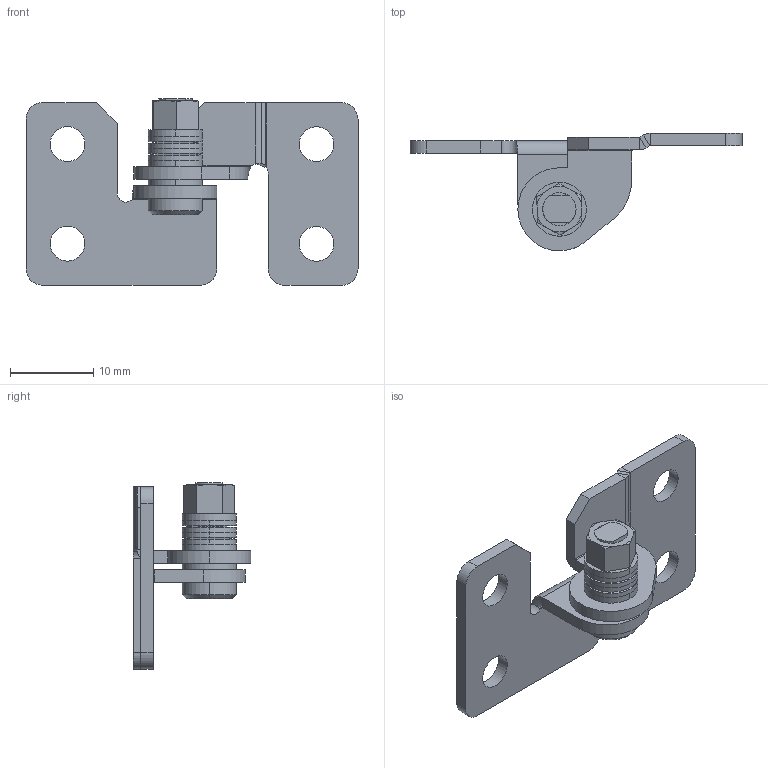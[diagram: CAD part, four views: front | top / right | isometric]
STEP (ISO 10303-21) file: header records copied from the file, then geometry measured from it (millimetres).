
FILE_DESCRIPTION (( 'STEP AP214' ), '1' );
FILE_NAME ('DP-039R.STEP', '2021-05-20T01:50:17', ( 'Windows 蚚誧' ), ( '' ), 'SwSTEP 2.0', 'SolidWorks 2018', '' );
FILE_SCHEMA (( 'AUTOMOTIVE_DESIGN' ));
Length unit declared in the file: millimetre
Products named in the file (1): DP-039R
Bounding box: 40 x 14.15 x 22.49 mm (x, y, z)
Volume: 1599.5 mm3; surface area: 2958 mm2
Topology: 11 solids, 11 shells, 178 faces, 429 edges, 266 vertices
Faces by surface type: cylinder 74, plane 74, cone 26, bspline 4
Entity records: 5455 total; most frequent: CARTESIAN_POINT 1094, DIRECTION 897, ORIENTED_EDGE 858, EDGE_CURVE 429, AXIS2_PLACEMENT_3D 337, VERTEX_POINT 266, VECTOR 223, LINE 223
